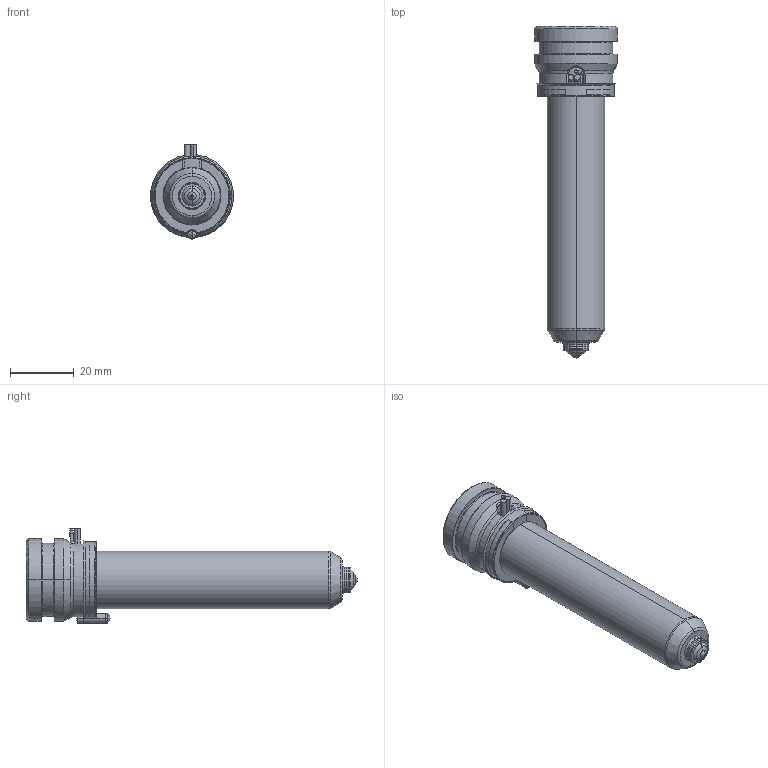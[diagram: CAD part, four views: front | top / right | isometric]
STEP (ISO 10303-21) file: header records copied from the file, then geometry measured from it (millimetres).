
FILE_DESCRIPTION((''),'2;1');
FILE_NAME('TH18086-A-1-PK-JG','2023-12-14T',('umhib'),('Thermoplay S.p.A.'),'PRO/ENGINEER BY PARAMETRIC TECHNOLOGY CORPORATION, 2017170','PRO/ENGINEER BY PARAMETRIC TECHNOLOGY CORPORATION, 2017170','');
FILE_SCHEMA(('CONFIG_CONTROL_DESIGN'));
Length unit declared in the file: millimetre
Products named in the file (1): TH18086-A-1-PK-JG
Bounding box: 26 x 104 x 29.5 mm (x, y, z)
Volume: 22285.3 mm3; surface area: 16197.4 mm2
Topology: 1 solids, 2 shells, 396 faces, 1032 edges, 641 vertices
Faces by surface type: cylinder 151, plane 85, cone 66, torus 56, bspline 24, sphere 12, extrusion 2
Entity records: 18005 total; most frequent: CARTESIAN_POINT 6093, ORIENTED_EDGE 2040, DIRECTION 2023, EDGE_CURVE 1022, AXIS2_PLACEMENT_3D 812, VERTEX_POINT 641, CIRCLE 441, EDGE_LOOP 416
